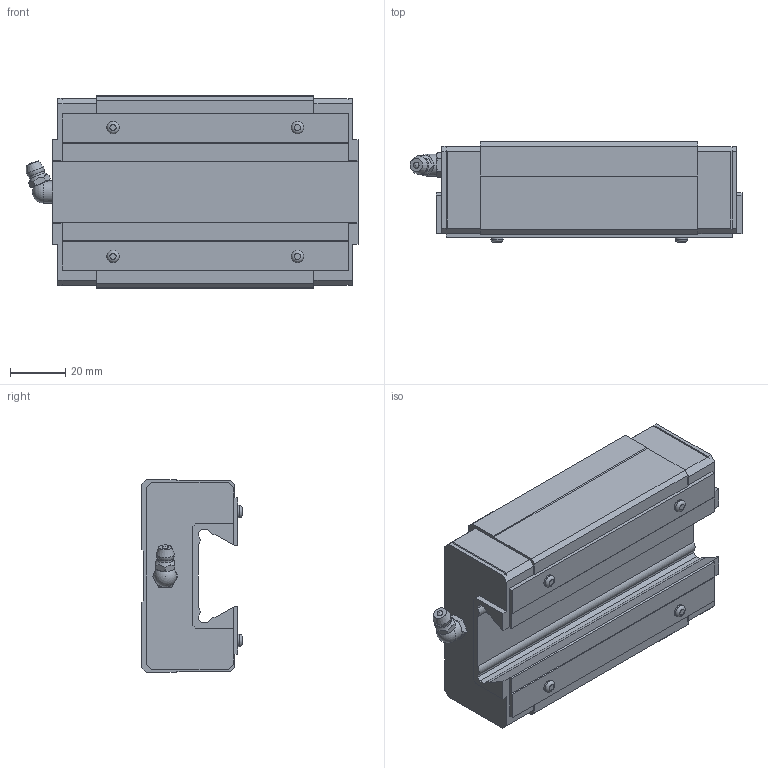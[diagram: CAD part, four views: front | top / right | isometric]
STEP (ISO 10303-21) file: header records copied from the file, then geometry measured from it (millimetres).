
FILE_DESCRIPTION(/* description */ ('STEP AP214'),/* implementation_level */ '2;1');
FILE_NAME(/* name */ 'SR35W1SS(GK) BLOCK(B-M6F1)',/* time_stamp */ '2023-06-01T09:46:49+02:00',/* author */ ('License CC BY-ND 4.0'),/* organization */ ('CADENAS'),/* preprocessor_version */ 'ST-DEVELOPER v19.3',/* originating_system */ 'PARTsolutions',/* authorisation */ ' ');
FILE_SCHEMA (('AUTOMOTIVE_DESIGN {1 0 10303 214 3 1 1}'));
Length unit declared in the file: millimetre
Products named in the file (3): SR35W1SS(GK) BLOCK(B-M6F1); SR-B-M6F_gnj; SR35WSSB-M6F1 S
Assembly tree (2 placements, depth 2):
  SR35W1SS(GK) BLOCK(B-M6F1)
    SR-B-M6F_gnj
    SR35WSSB-M6F1 S
Bounding box: 120.6 x 36.5 x 70 mm (x, y, z)
Volume: 206925.4 mm3; surface area: 33149.8 mm2
Topology: 2 solids, 2 shells, 164 faces, 438 edges, 283 vertices
Faces by surface type: plane 116, cone 21, cylinder 18, torus 6, sphere 3
Full cylindrical faces by diameter (mm): 4.5 x4, 4.917 x2, 6 x1, 6.647 x4, 8 x1
Entity records: 4895 total; most frequent: CARTESIAN_POINT 934, ORIENTED_EDGE 780, DIRECTION 766, EDGE_CURVE 390, LINE 300, VECTOR 300, VERTEX_POINT 277, AXIS2_PLACEMENT_3D 233
